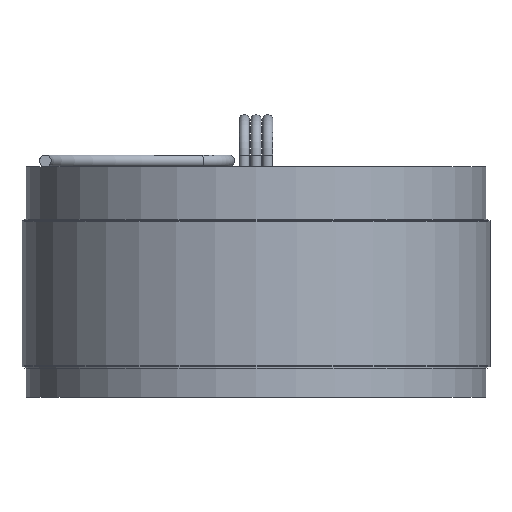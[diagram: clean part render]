
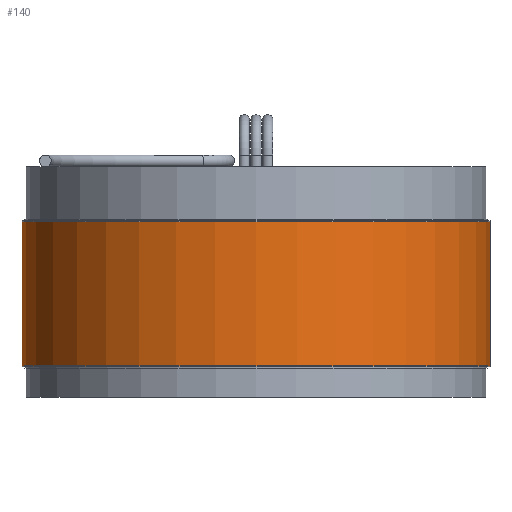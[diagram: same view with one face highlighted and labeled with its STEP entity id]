
A CAD part, front view. The second image highlights one B-rep face of the part: STEP entity #140.
In plain terms, the highlighted cylindrical face has radius 50.8 mm (diameter 101.6 mm), a full revolution.
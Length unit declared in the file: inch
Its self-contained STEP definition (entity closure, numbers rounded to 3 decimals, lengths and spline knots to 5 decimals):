
#4 = AXIS2_PLACEMENT_3D ( 'NONE', #694, #683, #18 ) ;
#18 = DIRECTION ( 'NONE',  ( 1., 0., 0. ) ) ;
#48 = EDGE_CURVE ( 'NONE', #905, #905, #637, .T. ) ;
#140 = ADVANCED_FACE ( 'NONE', ( #1290, #295 ), #911, .T. ) ;
#179 = DIRECTION ( 'NONE',  ( 0., 0., 1. ) ) ;
#182 = CARTESIAN_POINT ( 'NONE',  ( 2., 0., -0.61713 ) ) ;
#283 = DIRECTION ( 'NONE',  ( 1., 0., 0. ) ) ;
#295 = FACE_OUTER_BOUND ( 'NONE', #662, .T. ) ;
#319 = CIRCLE ( 'NONE', #671, 2. ) ;
#360 = DIRECTION ( 'NONE',  ( 1., 0., 0. ) ) ;
#452 = CARTESIAN_POINT ( 'NONE',  ( 0., 0., -0.635 ) ) ;
#466 = EDGE_LOOP ( 'NONE', ( #828 ) ) ;
#491 = VERTEX_POINT ( 'NONE', #1108 ) ;
#637 = CIRCLE ( 'NONE', #4, 2. ) ;
#662 = EDGE_LOOP ( 'NONE', ( #1293 ) ) ;
#671 = AXIS2_PLACEMENT_3D ( 'NONE', #850, #179, #283 ) ;
#683 = DIRECTION ( 'NONE',  ( 0., 0., 1. ) ) ;
#694 = CARTESIAN_POINT ( 'NONE',  ( 0., 0., -0.61713 ) ) ;
#828 = ORIENTED_EDGE ( 'NONE', *, *, #1193, .F. ) ;
#850 = CARTESIAN_POINT ( 'NONE',  ( 0., 0., 0.61713 ) ) ;
#905 = VERTEX_POINT ( 'NONE', #182 ) ;
#911 = CYLINDRICAL_SURFACE ( 'NONE', #979, 2. ) ;
#979 = AXIS2_PLACEMENT_3D ( 'NONE', #452, #1328, #360 ) ;
#1108 = CARTESIAN_POINT ( 'NONE',  ( 2., 0., 0.61713 ) ) ;
#1193 = EDGE_CURVE ( 'NONE', #491, #491, #319, .T. ) ;
#1290 = FACE_OUTER_BOUND ( 'NONE', #466, .T. ) ;
#1293 = ORIENTED_EDGE ( 'NONE', *, *, #48, .T. ) ;
#1328 = DIRECTION ( 'NONE',  ( 0., 0., 1. ) ) ;
